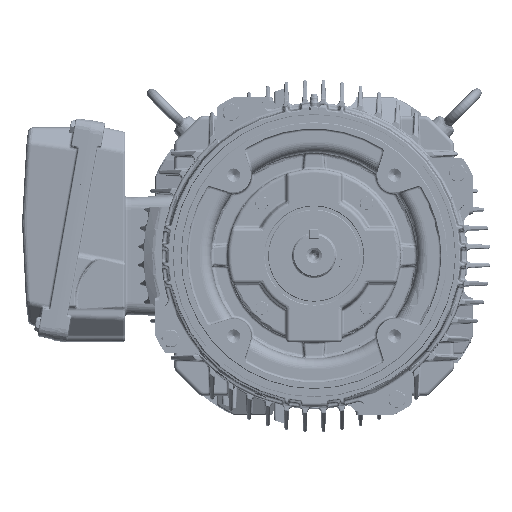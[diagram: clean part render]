
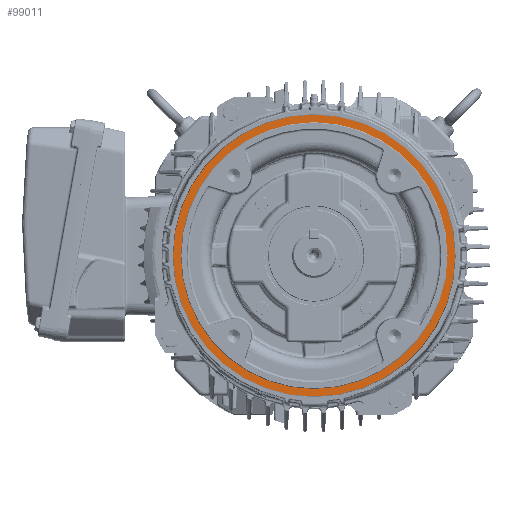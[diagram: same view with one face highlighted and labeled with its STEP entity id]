
A CAD part, top view. The second image highlights one B-rep face of the part: STEP entity #99011.
In plain terms, the highlighted planar face has unit normal (0, 0, 1).
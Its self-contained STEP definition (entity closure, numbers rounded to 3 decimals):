
#4288 = ORIENTED_EDGE ( 'NONE', *, *, #253973, .F. ) ;
#8313 = EDGE_CURVE ( 'NONE', #40766, #181293, #220939, .T. ) ;
#11551 = VERTEX_POINT ( 'NONE', #34247 ) ;
#16727 = FACE_BOUND ( 'NONE', #66573, .T. ) ;
#34247 = CARTESIAN_POINT ( 'NONE',  ( 114.079, 0., 197.05 ) ) ;
#40766 = VERTEX_POINT ( 'NONE', #367462 ) ;
#46004 = ORIENTED_EDGE ( 'NONE', *, *, #104428, .T. ) ;
#52535 = CIRCLE ( 'NONE', #364746, 114.079 ) ;
#66573 = EDGE_LOOP ( 'NONE', ( #4288, #301722 ) ) ;
#87439 = CARTESIAN_POINT ( 'NONE',  ( 0., 0., 197.05 ) ) ;
#99011 = ADVANCED_FACE ( 'NONE', ( #16727, #101440 ), #216141, .T. ) ;
#101440 = FACE_OUTER_BOUND ( 'NONE', #101954, .T. ) ;
#101954 = EDGE_LOOP ( 'NONE', ( #281093, #46004 ) ) ;
#103284 = DIRECTION ( 'NONE',  ( 1., 0., 0. ) ) ;
#104428 = EDGE_CURVE ( 'NONE', #11551, #244872, #250618, .T. ) ;
#114098 = DIRECTION ( 'NONE',  ( 0., 0., 1. ) ) ;
#131523 = DIRECTION ( 'NONE',  ( 0., 0., 1. ) ) ;
#158642 = DIRECTION ( 'NONE',  ( 1., 0., 0. ) ) ;
#170542 = CARTESIAN_POINT ( 'NONE',  ( 0., 0., 197.05 ) ) ;
#181293 = VERTEX_POINT ( 'NONE', #227057 ) ;
#194379 = DIRECTION ( 'NONE',  ( 0., 0., 1. ) ) ;
#204008 = DIRECTION ( 'NONE',  ( 1., 0., 0. ) ) ;
#206069 = AXIS2_PLACEMENT_3D ( 'NONE', #370826, #194379, #250717 ) ;
#216141 = PLANE ( 'NONE',  #302317 ) ;
#220939 = CIRCLE ( 'NONE', #341053, 107.95 ) ;
#227057 = CARTESIAN_POINT ( 'NONE',  ( 107.95, 0., 197.05 ) ) ;
#232162 = DIRECTION ( 'NONE',  ( 0., 0., 1. ) ) ;
#238796 = AXIS2_PLACEMENT_3D ( 'NONE', #170542, #114098, #335893 ) ;
#244872 = VERTEX_POINT ( 'NONE', #354786 ) ;
#245086 = DIRECTION ( 'NONE',  ( 0., 0., 1. ) ) ;
#250618 = CIRCLE ( 'NONE', #238796, 114.079 ) ;
#250717 = DIRECTION ( 'NONE',  ( 1., 0., 0. ) ) ;
#253973 = EDGE_CURVE ( 'NONE', #181293, #40766, #362099, .T. ) ;
#272077 = EDGE_CURVE ( 'NONE', #244872, #11551, #52535, .T. ) ;
#281093 = ORIENTED_EDGE ( 'NONE', *, *, #272077, .T. ) ;
#301722 = ORIENTED_EDGE ( 'NONE', *, *, #8313, .F. ) ;
#302317 = AXIS2_PLACEMENT_3D ( 'NONE', #330661, #131523, #103284 ) ;
#303226 = CARTESIAN_POINT ( 'NONE',  ( 0., 0., 197.05 ) ) ;
#330661 = CARTESIAN_POINT ( 'NONE',  ( 0., 107.95, 197.05 ) ) ;
#335893 = DIRECTION ( 'NONE',  ( 1., 0., 0. ) ) ;
#341053 = AXIS2_PLACEMENT_3D ( 'NONE', #303226, #245086, #158642 ) ;
#354786 = CARTESIAN_POINT ( 'NONE',  ( -114.079, 0., 197.05 ) ) ;
#362099 = CIRCLE ( 'NONE', #206069, 107.95 ) ;
#364746 = AXIS2_PLACEMENT_3D ( 'NONE', #87439, #232162, #204008 ) ;
#367462 = CARTESIAN_POINT ( 'NONE',  ( -107.95, 0., 197.05 ) ) ;
#370826 = CARTESIAN_POINT ( 'NONE',  ( 0., 0., 197.05 ) ) ;
